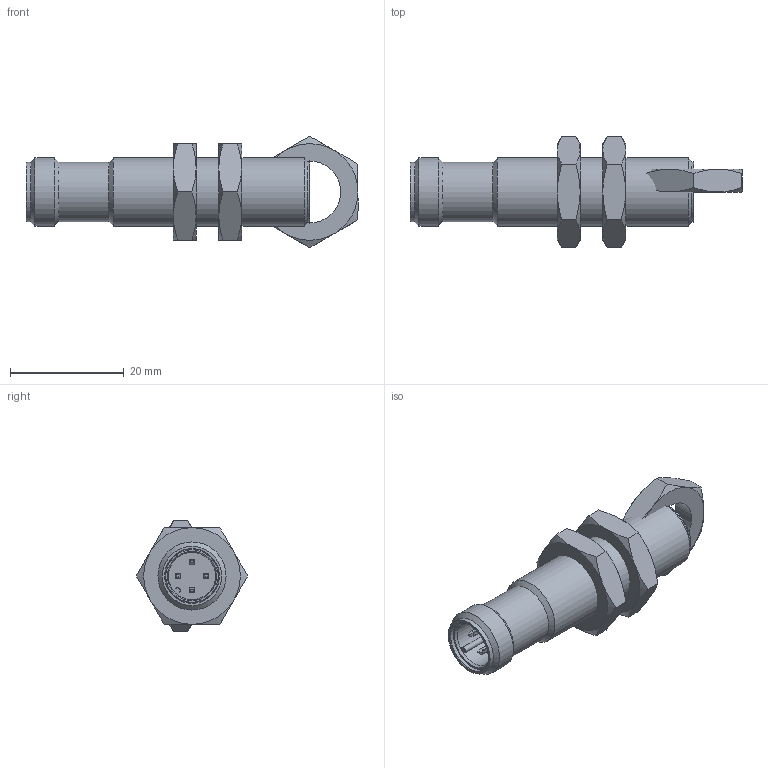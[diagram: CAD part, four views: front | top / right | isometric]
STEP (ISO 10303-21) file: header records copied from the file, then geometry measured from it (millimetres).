
FILE_DESCRIPTION( ( 'Unknown' ), '1' );
FILE_NAME( '//baumerholding.org/frauenfeld/bereich/BECH/Services/me_CAD/Solid Edge/Models/Dokumentationen/Induktiv/IxRx 12/Vereinfachte Modelle/Neutralformate/IWRM 12x970x_S14.stp', 'Unknown', ( 'Unknown' ), ( 'Unknown' ), 'XStep 1.0', 'Unknown', ' ' );
FILE_SCHEMA( ( 'CONFIG_CONTROL_DESIGN' ) );
Length unit declared in the file: millimetre
Products named in the file (3): Assem1; 101470; IWRM 12x970x_S14_oA
Bounding box: 58.45 x 19.63 x 19.63 mm (x, y, z)
Volume: 11511.6 mm3; surface area: 6771.8 mm2
Topology: 5 solids, 5 shells, 247 faces, 614 edges, 391 vertices
Faces by surface type: plane 144, cone 52, cylinder 51
Full cylindrical faces by diameter (mm): 9.45 x2, 10.45 x4, 10.7 x2, 10.917 x3, 12 x4
Entity records: 3492 total; most frequent: CARTESIAN_POINT 698, DIRECTION 552, ORIENTED_EDGE 532, EDGE_CURVE 266, AXIS2_PLACEMENT_3D 193, VERTEX_POINT 179, LINE 166, VECTOR 166
